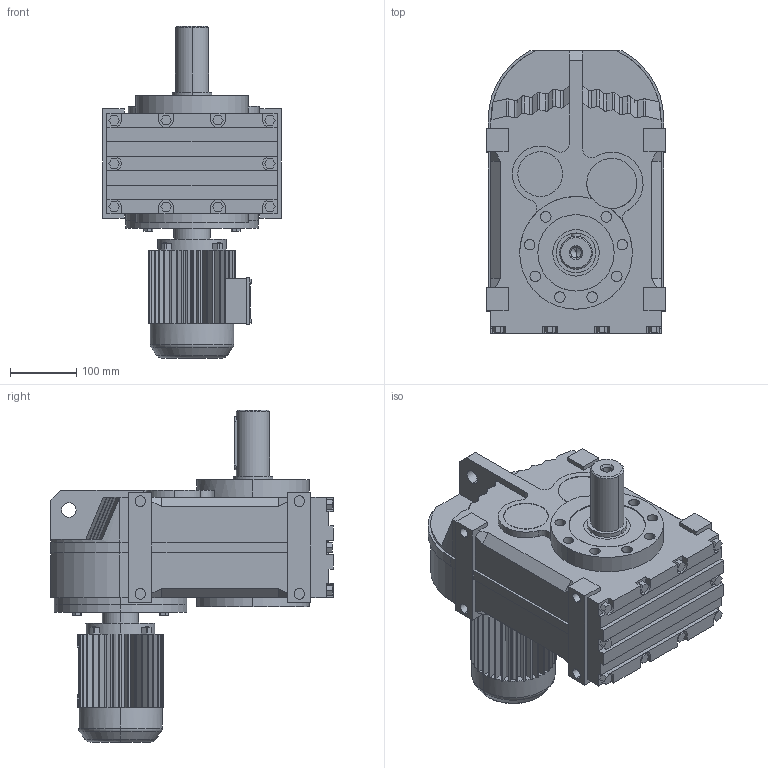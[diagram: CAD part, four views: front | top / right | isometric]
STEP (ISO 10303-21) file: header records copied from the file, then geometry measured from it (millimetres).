
FILE_DESCRIPTION(('Open CASCADE Model'),'2;1');
FILE_NAME('Open CASCADE Shape Model','2021-07-15T14:51:45',('Author'),( 'Open CASCADE'),'Open CASCADE STEP processor 6.3','Open CASCADE 6.3' ,'Unknown');
FILE_SCHEMA(('AUTOMOTIVE_DESIGN_CC2 { 1 2 10303 214 -1 1 5 4 }'));
Length unit declared in the file: millimetre
Products named in the file (4): 1_F77-Y63S; FA27‵157_77.step; 萇儂_200_Y63S.step; す瑩妗陑粣F_77.step
Assembly tree (3 placements, depth 2):
  1_F77-Y63S
    FA27‵157_77.step
    萇儂_200_Y63S.step
    す瑩妗陑粣F_77.step
Bounding box: 270 x 426 x 501 mm (x, y, z)
Volume: 19021782.3 mm3; surface area: 853523 mm2
Topology: 3 solids, 3 shells, 792 faces, 2086 edges, 1354 vertices
Faces by surface type: plane 566, cylinder 198, bspline 16, cone 8, torus 4
Entity records: 53432 total; most frequent: CARTESIAN_POINT 13430, DIRECTION 6995, ORIENTED_EDGE 4168, PCURVE 4168, DEFINITIONAL_REPRESENTATION 4168, LINE 3941, VECTOR 3941, EDGE_CURVE 2084
